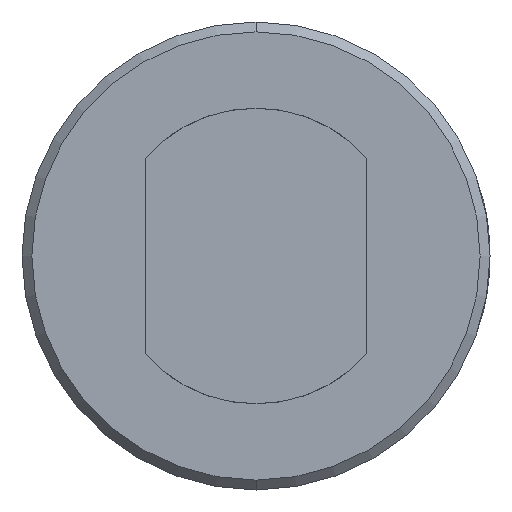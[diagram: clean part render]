
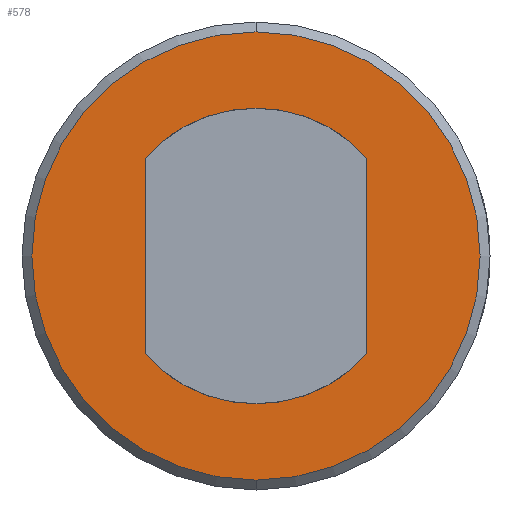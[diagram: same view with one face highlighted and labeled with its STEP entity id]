
A CAD part, front view. The second image highlights one B-rep face of the part: STEP entity #578.
In plain terms, the highlighted planar face has unit normal (0, -1, 0).
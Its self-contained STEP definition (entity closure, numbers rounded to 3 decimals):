
#14 = VERTEX_POINT ( 'NONE', #1012 ) ;
#17 = CIRCLE ( 'NONE', #848, 45.5 ) ;
#43 = LINE ( 'NONE', #953, #920 ) ;
#50 = DIRECTION ( 'NONE',  ( 0., 0., 1. ) ) ;
#53 = CIRCLE ( 'NONE', #490, 20. ) ;
#77 = CARTESIAN_POINT ( 'NONE',  ( 0., 0., -45.5 ) ) ;
#86 = CIRCLE ( 'NONE', #1081, 45.5 ) ;
#93 = ORIENTED_EDGE ( 'NONE', *, *, #186, .T. ) ;
#101 = LINE ( 'NONE', #779, #948 ) ;
#104 = CARTESIAN_POINT ( 'NONE',  ( 0., 0., 0. ) ) ;
#119 = VERTEX_POINT ( 'NONE', #959 ) ;
#125 = CARTESIAN_POINT ( 'NONE',  ( -13.7, 0., 14.571 ) ) ;
#132 = CARTESIAN_POINT ( 'NONE',  ( 0., 0., 0. ) ) ;
#157 = ORIENTED_EDGE ( 'NONE', *, *, #559, .T. ) ;
#175 = AXIS2_PLACEMENT_3D ( 'NONE', #104, #603, #509 ) ;
#186 = EDGE_CURVE ( 'NONE', #295, #14, #86, .T. ) ;
#189 = CARTESIAN_POINT ( 'NONE',  ( 0., 0., 0. ) ) ;
#194 = DIRECTION ( 'NONE',  ( 0., 0., 1. ) ) ;
#244 = FACE_OUTER_BOUND ( 'NONE', #956, .T. ) ;
#258 = CIRCLE ( 'NONE', #313, 20. ) ;
#262 = VERTEX_POINT ( 'NONE', #372 ) ;
#264 = FACE_BOUND ( 'NONE', #495, .T. ) ;
#265 = DIRECTION ( 'NONE',  ( 0., -1., 0. ) ) ;
#269 = DIRECTION ( 'NONE',  ( 0., 1., 0. ) ) ;
#295 = VERTEX_POINT ( 'NONE', #77 ) ;
#313 = AXIS2_PLACEMENT_3D ( 'NONE', #772, #265, #860 ) ;
#322 = ORIENTED_EDGE ( 'NONE', *, *, #349, .F. ) ;
#331 = CIRCLE ( 'NONE', #175, 20. ) ;
#337 = ORIENTED_EDGE ( 'NONE', *, *, #909, .F. ) ;
#349 = EDGE_CURVE ( 'NONE', #262, #696, #53, .T. ) ;
#372 = CARTESIAN_POINT ( 'NONE',  ( 13.7, 0., 14.571 ) ) ;
#426 = DIRECTION ( 'NONE',  ( 0., 0., 1. ) ) ;
#432 = ORIENTED_EDGE ( 'NONE', *, *, #653, .T. ) ;
#436 = DIRECTION ( 'NONE',  ( 0., 0., 1. ) ) ;
#469 = DIRECTION ( 'NONE',  ( 0., 0., 1. ) ) ;
#490 = AXIS2_PLACEMENT_3D ( 'NONE', #979, #718, #469 ) ;
#495 = EDGE_LOOP ( 'NONE', ( #560, #1011, #432, #337, #322 ) ) ;
#509 = DIRECTION ( 'NONE',  ( 0., 0., 1. ) ) ;
#541 = VERTEX_POINT ( 'NONE', #125 ) ;
#542 = DIRECTION ( 'NONE',  ( 0., -1., 0. ) ) ;
#559 = EDGE_CURVE ( 'NONE', #14, #295, #17, .T. ) ;
#560 = ORIENTED_EDGE ( 'NONE', *, *, #592, .F. ) ;
#578 = ADVANCED_FACE ( 'NONE', ( #244, #264 ), #1048, .F. ) ;
#592 = EDGE_CURVE ( 'NONE', #119, #262, #43, .T. ) ;
#603 = DIRECTION ( 'NONE',  ( 0., -1., 0. ) ) ;
#613 = CARTESIAN_POINT ( 'NONE',  ( 0., 0., 0. ) ) ;
#640 = EDGE_CURVE ( 'NONE', #937, #119, #331, .T. ) ;
#653 = EDGE_CURVE ( 'NONE', #937, #541, #101, .T. ) ;
#696 = VERTEX_POINT ( 'NONE', #771 ) ;
#700 = DIRECTION ( 'NONE',  ( 0., 0., 1. ) ) ;
#718 = DIRECTION ( 'NONE',  ( 0., -1., 0. ) ) ;
#771 = CARTESIAN_POINT ( 'NONE',  ( 0., 0., 20. ) ) ;
#772 = CARTESIAN_POINT ( 'NONE',  ( 0., 0., 0. ) ) ;
#778 = CARTESIAN_POINT ( 'NONE',  ( -13.7, 0., -14.571 ) ) ;
#779 = CARTESIAN_POINT ( 'NONE',  ( -13.7, 0., -47.5 ) ) ;
#848 = AXIS2_PLACEMENT_3D ( 'NONE', #189, #1037, #700 ) ;
#860 = DIRECTION ( 'NONE',  ( 0., 0., 1. ) ) ;
#909 = EDGE_CURVE ( 'NONE', #696, #541, #258, .T. ) ;
#920 = VECTOR ( 'NONE', #194, 1000. ) ;
#937 = VERTEX_POINT ( 'NONE', #778 ) ;
#948 = VECTOR ( 'NONE', #426, 1000. ) ;
#953 = CARTESIAN_POINT ( 'NONE',  ( 13.7, 0., -47.5 ) ) ;
#956 = EDGE_LOOP ( 'NONE', ( #157, #93 ) ) ;
#959 = CARTESIAN_POINT ( 'NONE',  ( 13.7, 0., -14.571 ) ) ;
#979 = CARTESIAN_POINT ( 'NONE',  ( 0., 0., 0. ) ) ;
#983 = AXIS2_PLACEMENT_3D ( 'NONE', #613, #269, #436 ) ;
#1011 = ORIENTED_EDGE ( 'NONE', *, *, #640, .F. ) ;
#1012 = CARTESIAN_POINT ( 'NONE',  ( 0., 0., 45.5 ) ) ;
#1037 = DIRECTION ( 'NONE',  ( 0., -1., 0. ) ) ;
#1048 = PLANE ( 'NONE',  #983 ) ;
#1081 = AXIS2_PLACEMENT_3D ( 'NONE', #132, #542, #50 ) ;
